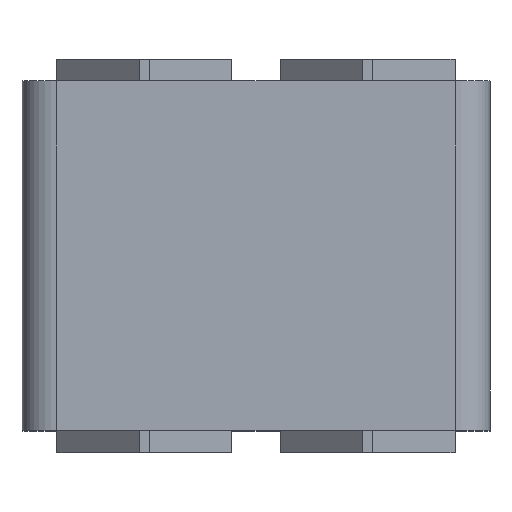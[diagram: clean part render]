
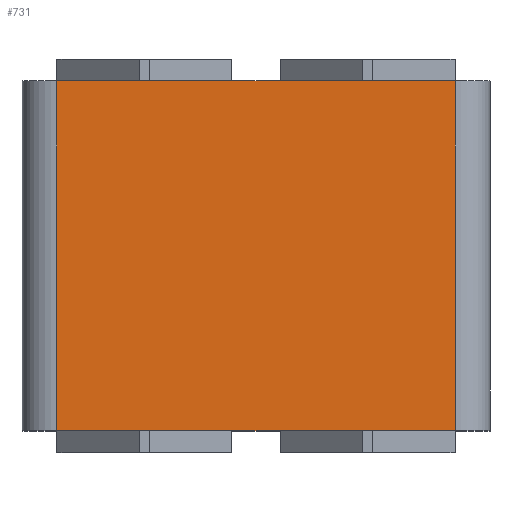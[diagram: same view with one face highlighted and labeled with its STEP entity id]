
A CAD part, top view. The second image highlights one B-rep face of the part: STEP entity #731.
In plain terms, the highlighted planar face has unit normal (0, 0, 1).
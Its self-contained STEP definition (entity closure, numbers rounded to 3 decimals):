
#673=CARTESIAN_POINT('',(10.,40.0,14.));
#674=VERTEX_POINT('',#673);
#682=CARTESIAN_POINT('',(10.,0.0,14.));
#683=VERTEX_POINT('',#682);
#684=CARTESIAN_POINT('',(10.,0.0,14.));
#685=DIRECTION('',(0.0,1.0,0.0));
#686=VECTOR('',#685,40.0);
#687=LINE('',#684,#686);
#688=EDGE_CURVE('',#683,#674,#687,.T.);
#701=CARTESIAN_POINT('',(10.,0.0,14.));
#702=DIRECTION('',(0.0,0.0,1.0));
#703=DIRECTION('',(1.0,0.0,0.0));
#704=AXIS2_PLACEMENT_3D('',#701,#702,#703);
#705=PLANE('',#704);
#706=CARTESIAN_POINT('',(-35.5,40.0,14.));
#707=VERTEX_POINT('',#706);
#708=CARTESIAN_POINT('',(10.,40.0,14.));
#709=DIRECTION('',(-1.0,0.0,0.0));
#710=VECTOR('',#709,45.5);
#711=LINE('',#708,#710);
#712=EDGE_CURVE('',#674,#707,#711,.T.);
#713=ORIENTED_EDGE('',*,*,#712,.T.);
#714=CARTESIAN_POINT('',(-35.5,0.0,14.));
#715=VERTEX_POINT('',#714);
#716=CARTESIAN_POINT('',(-35.5,0.0,14.));
#717=DIRECTION('',(0.0,1.0,0.0));
#718=VECTOR('',#717,40.0);
#719=LINE('',#716,#718);
#720=EDGE_CURVE('',#715,#707,#719,.T.);
#721=ORIENTED_EDGE('',*,*,#720,.F.);
#722=CARTESIAN_POINT('',(-35.5,0.0,14.));
#723=DIRECTION('',(1.0,0.0,0.0));
#724=VECTOR('',#723,45.5);
#725=LINE('',#722,#724);
#726=EDGE_CURVE('',#715,#683,#725,.T.);
#727=ORIENTED_EDGE('',*,*,#726,.T.);
#728=ORIENTED_EDGE('',*,*,#688,.T.);
#729=EDGE_LOOP('',(#713,#721,#727,#728));
#730=FACE_OUTER_BOUND('',#729,.T.);
#731=ADVANCED_FACE('',(#730),#705,.T.);
